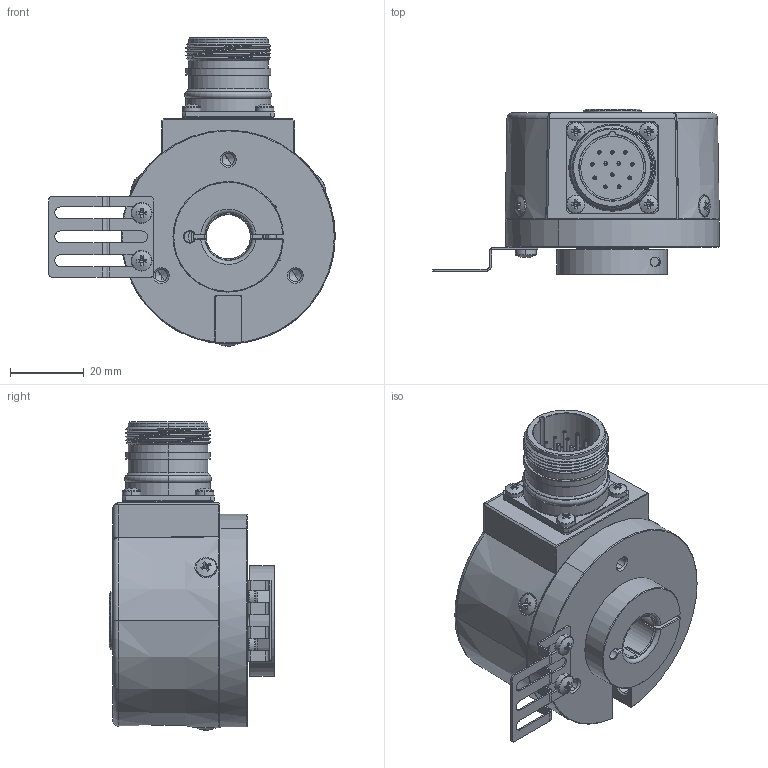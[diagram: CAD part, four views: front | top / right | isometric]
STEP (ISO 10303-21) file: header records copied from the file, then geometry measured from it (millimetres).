
FILE_DESCRIPTION (( 'STEP AP214' ), '1' );
FILE_NAME ('BSP2M7x5x.STEP', '2024-11-22T07:43:46', ( '' ), ( '' ), 'SwSTEP 2.0', 'SolidWorks 2019', '' );
FILE_SCHEMA (( 'AUTOMOTIVE_DESIGN' ));
Length unit declared in the file: millimetre
Products named in the file (1): BSP2M7x5x
Bounding box: 77.82 x 45 x 83.66 mm (x, y, z)
Volume: 64691.8 mm3; surface area: 38754.5 mm2
Topology: 2 solids, 28 shells, 1371 faces, 3087 edges, 1840 vertices
Faces by surface type: plane 406, cone 309, cylinder 305, sphere 160, bspline 108, torus 83
Entity records: 62924 total; most frequent: CARTESIAN_POINT 17939, DIRECTION 6407, ORIENTED_EDGE 6090, EDGE_CURVE 3045, AXIS2_PLACEMENT_3D 2678, VERTEX_POINT 1840, EDGE_LOOP 1539, CIRCLE 1414
